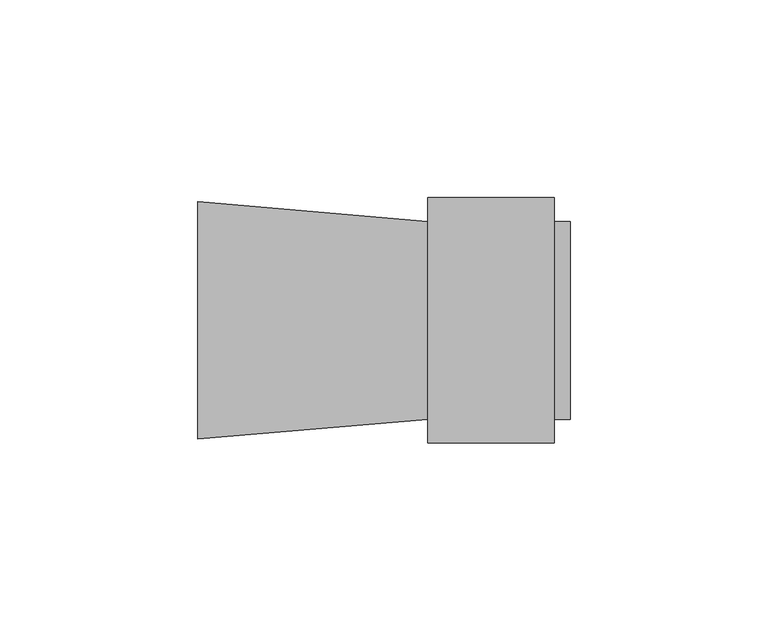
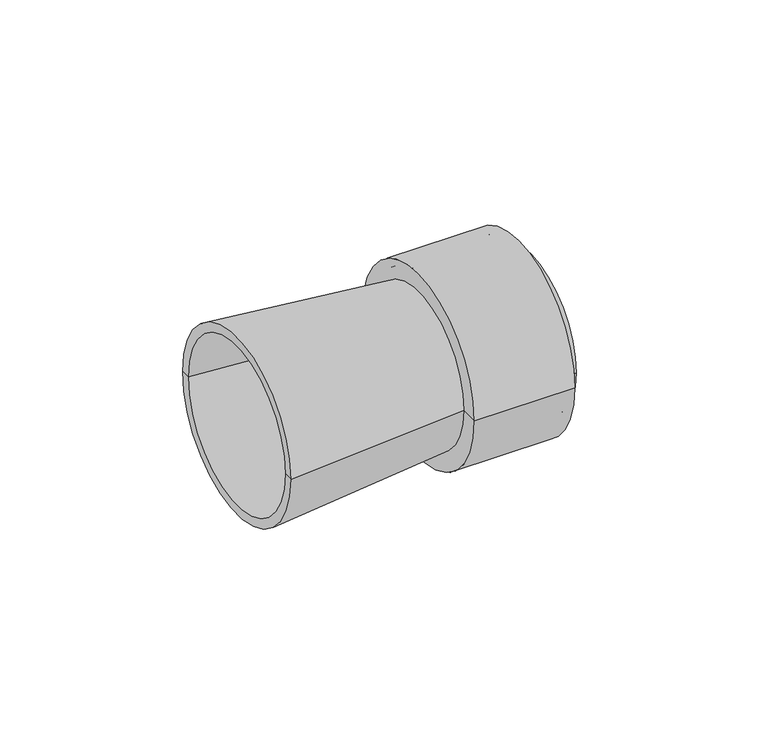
"""IFC4 building model written with IfcOpenShell, lengths in millimetres: cable carrier fitting geometry, КНС_ПереходникАрмированнаяТрубаЖесткаяТруба_IP67_DKC : Коробка."""

from ifc_helpers import new_model, si_unit, frame, origin, place, context, project, spatial, polyline, circle_curve, source, transform, mapped, element, save
from ifc_brep_helpers import plane_surface, cylinder_surface, revolved_surface, advanced_brep


def cable_carrier_fitting_ca41fa86(model_context):
    return source(origin(), model_context, "Body", "AdvancedBrep", [
        advanced_brep(
        [(-58.0, -30.0, 0.0), (-58.0, 30.0, 0.0), (0.0, 25.0, 0.0), (0.0, -25.0, 0.0), (-58.0, -26.9888732, 0.0), (-58.0, 26.9888732, 0.0), (0.0, -21.9888732, 0.0), (0.0, 21.9888732, 0.0)],
        [
            (0, 1, circle_curve(frame((-58.0, 0.0, 0.0), z_axis=(1.0, 0.0, 0.0), x_axis=(0.0, 1.0, 0.0)), 30.0)),
            (1, 2),
            (2, 3, circle_curve(frame((0.0, 0.0, 0.0), z_axis=(-1.0, 0.0, 0.0), x_axis=(0.0, 1.0, 0.0)), 25.0)),
            (3, 0),
            (1, 0, circle_curve(frame((-58.0, 0.0, 0.0), z_axis=(1.0, 0.0, 0.0), x_axis=(0.0, 1.0, 0.0)), 30.0)),
            (3, 2, circle_curve(frame((0.0, 0.0, 0.0), z_axis=(-1.0, 0.0, 0.0), x_axis=(0.0, 1.0, 0.0)), 25.0)),
            (4, 5, circle_curve(frame((-58.0, 0.0, 0.0), z_axis=(1.0, 0.0, 0.0), x_axis=(0.0, 1.0, 0.0)), 26.9888732)),
            (5, 1),
            (0, 4),
            (5, 4, circle_curve(frame((-58.0, 0.0, 0.0), z_axis=(1.0, 0.0, 0.0), x_axis=(0.0, 1.0, 0.0)), 26.9888732)),
            (6, 7, circle_curve(frame((0.0, 0.0, 0.0), z_axis=(1.0, 0.0, 0.0), x_axis=(0.0, 1.0, 0.0)), 21.9888732)),
            (7, 5),
            (4, 6),
            (7, 6, circle_curve(frame((0.0, 0.0, 0.0), z_axis=(1.0, 0.0, 0.0), x_axis=(0.0, 1.0, 0.0)), 21.9888732)),
            (2, 7),
            (6, 3),
        ],
        [
            revolved_surface(polyline([(0.0, 25.0, 0.0), (-58.0, 30.0, 0.0)]), (1527.0, 0.0, 0.0), (-1.0, 0.0, 0.0)),
            plane_surface(frame((-58.0, 0.0, 0.0), z_axis=(-1.0, 0.0, 0.0), x_axis=(0.0, 1.0, 0.0))),
            revolved_surface(polyline([(-58.0, 26.9888732, 0.0), (0.0, 21.9888732, 0.0)]), (1527.0, 0.0, 0.0), (-1.0, 0.0, 0.0)),
            plane_surface(frame((0.0, 0.0, 0.0), z_axis=(1.0, 0.0, 0.0), x_axis=(0.0, 1.0, 0.0))),
        ],
        [
            (0, [[1, 2, 3, 4]]),
            (0, [[5, -4, 6, -2]]),
            (1, [[7, 8, -1, 9]]),
            (1, [[10, -9, -5, -8]]),
            (2, [[11, 12, -7, 13]]),
            (2, [[14, -13, -10, -12]]),
            (3, [[-3, 15, -11, 16]]),
            (3, [[-6, -16, -14, -15]]),
        ],
    ),
        advanced_brep(
        [(3.0, -22.5, 0.0), (3.0, 22.5, 0.0), (3.0, 0.0, 0.0), (36.0, -22.5, 0.0), (36.0, 22.5, 0.0), (36.0, -25.0, 0.0), (36.0, 25.0, 0.0), (3.0, -25.0, 0.0), (3.0, 25.0, 0.0), (3.0, -28.2376891, 0.0), (3.0, 28.2376891, 0.0), (32.0, -28.2376891, 0.0), (32.0, 28.2376891, 0.0), (32.0, -31.0, 0.0), (32.0, 31.0, 0.0), (0.0, -31.0, 0.0), (0.0, 31.0, 0.0), (0.0, 0.0, 0.0)],
        [
            (0, 1, circle_curve(frame((3.0, 0.0, 0.0), z_axis=(1.0, 0.0, 0.0), x_axis=(0.0, 1.0, 0.0)), 22.5)),
            (1, 2),
            (2, 0),
            (1, 0, circle_curve(frame((3.0, 0.0, 0.0), z_axis=(1.0, 0.0, 0.0), x_axis=(0.0, 1.0, 0.0)), 22.5)),
            (3, 4, circle_curve(frame((36.0, 0.0, 0.0), z_axis=(1.0, 0.0, 0.0), x_axis=(0.0, 1.0, 0.0)), 22.5)),
            (4, 1),
            (0, 3),
            (4, 3, circle_curve(frame((36.0, 0.0, 0.0), z_axis=(1.0, 0.0, 0.0), x_axis=(0.0, 1.0, 0.0)), 22.5)),
            (5, 6, circle_curve(frame((36.0, 0.0, 0.0), z_axis=(1.0, 0.0, 0.0), x_axis=(0.0, 1.0, 0.0)), 25.0)),
            (6, 4),
            (3, 5),
            (6, 5, circle_curve(frame((36.0, 0.0, 0.0), z_axis=(1.0, 0.0, 0.0), x_axis=(0.0, 1.0, 0.0)), 25.0)),
            (7, 8, circle_curve(frame((3.0, 0.0, 0.0), z_axis=(1.0, 0.0, 0.0), x_axis=(0.0, 1.0, 0.0)), 25.0)),
            (8, 6),
            (5, 7),
            (8, 7, circle_curve(frame((3.0, 0.0, 0.0), z_axis=(1.0, 0.0, 0.0), x_axis=(0.0, 1.0, 0.0)), 25.0)),
            (9, 10, circle_curve(frame((3.0, 0.0, 0.0), z_axis=(1.0, 0.0, 0.0), x_axis=(0.0, 1.0, 0.0)), 28.2376891)),
            (10, 8),
            (7, 9),
            (10, 9, circle_curve(frame((3.0, 0.0, 0.0), z_axis=(1.0, 0.0, 0.0), x_axis=(0.0, 1.0, 0.0)), 28.2376891)),
            (11, 12, circle_curve(frame((32.0, 0.0, 0.0), z_axis=(1.0, 0.0, 0.0), x_axis=(0.0, 1.0, 0.0)), 28.2376891)),
            (12, 10),
            (9, 11),
            (12, 11, circle_curve(frame((32.0, 0.0, 0.0), z_axis=(1.0, 0.0, 0.0), x_axis=(0.0, 1.0, 0.0)), 28.2376891)),
            (13, 14, circle_curve(frame((32.0, 0.0, 0.0), z_axis=(1.0, 0.0, 0.0), x_axis=(0.0, 1.0, 0.0)), 31.0)),
            (14, 12),
            (11, 13),
            (14, 13, circle_curve(frame((32.0, 0.0, 0.0), z_axis=(1.0, 0.0, 0.0), x_axis=(0.0, 1.0, 0.0)), 31.0)),
            (15, 16, circle_curve(frame((0.0, 0.0, 0.0), z_axis=(1.0, 0.0, 0.0), x_axis=(0.0, 1.0, 0.0)), 31.0)),
            (16, 14),
            (13, 15),
            (16, 15, circle_curve(frame((0.0, 0.0, 0.0), z_axis=(1.0, 0.0, 0.0), x_axis=(0.0, 1.0, 0.0)), 31.0)),
            (17, 16),
            (15, 17),
        ],
        [
            plane_surface(frame((3.0, 0.0, 0.0), z_axis=(1.0, 0.0, 0.0), x_axis=(0.0, 1.0, 0.0))),
            revolved_surface(polyline([(3.0, 22.5, 0.0), (36.0, 22.5, 0.0)]), (1531.5, 0.0, 0.0), (-1.0, 0.0, 0.0)),
            plane_surface(frame((36.0, 0.0, 0.0), z_axis=(1.0, 0.0, 0.0), x_axis=(0.0, 1.0, 0.0))),
            cylinder_surface(frame((1531.5, 0.0, 0.0), z_axis=(-1.0, 0.0, 0.0), x_axis=(0.0, 1.0, 0.0)), 25.0),
            revolved_surface(polyline([(3.0, 28.2376891, 0.0), (32.0, 28.2376891, 0.0)]), (1531.5, 0.0, 0.0), (-1.0, 0.0, 0.0)),
            plane_surface(frame((32.0, 0.0, 0.0), z_axis=(1.0, 0.0, 0.0), x_axis=(0.0, 1.0, 0.0))),
            cylinder_surface(frame((1531.5, 0.0, 0.0), z_axis=(-1.0, 0.0, 0.0), x_axis=(0.0, 1.0, 0.0)), 31.0),
            plane_surface(frame((0.0, 0.0, 0.0), z_axis=(-1.0, 0.0, 0.0), x_axis=(0.0, 1.0, 0.0))),
        ],
        [
            (0, [[1, 2, 3]]),
            (0, [[4, -3, -2]]),
            (1, [[5, 6, -1, 7]]),
            (1, [[8, -7, -4, -6]]),
            (2, [[9, 10, -5, 11]]),
            (2, [[12, -11, -8, -10]]),
            (3, [[13, 14, -9, 15]]),
            (3, [[16, -15, -12, -14]]),
            (0, [[17, 18, -13, 19]]),
            (0, [[20, -19, -16, -18]]),
            (4, [[21, 22, -17, 23]]),
            (4, [[24, -23, -20, -22]]),
            (5, [[25, 26, -21, 27]]),
            (5, [[28, -27, -24, -26]]),
            (6, [[29, 30, -25, 31]]),
            (6, [[32, -31, -28, -30]]),
            (7, [[33, -29, 34]]),
            (7, [[-34, -32, -33]]),
        ],
    ),
    ])


if __name__ == "__main__":
    model = new_model("IFC4")
    model_context = context("Model", 3, world=origin())
    ifc_project = project(units=[si_unit("LENGTHUNIT", "METRE", prefix="MILLI")], contexts=[model_context])
    site = spatial("IfcSite", under=ifc_project)
    building = spatial("IfcBuilding", under=site)
    placement = place(None, origin())
    cable_carrier_fitting_shape = cable_carrier_fitting_ca41fa86(model_context)
    element("IfcCableCarrierFitting", 1, ObjectType="КНС_ПереходникАрмированнаяТрубаЖесткаяТруба_IP67_DKC : Коробка", at=placement, inside=building, context=model_context, shape_type="MappedRepresentation", body=[
        mapped(cable_carrier_fitting_shape, transform((0.0, 0.0, 0.0), x_axis=(1.0, 0.0, 0.0), y_axis=(0.0, 1.0, 0.0), z_axis=(0.0, 0.0, 1.0))),
    ])
    save(model, "model.ifc")
